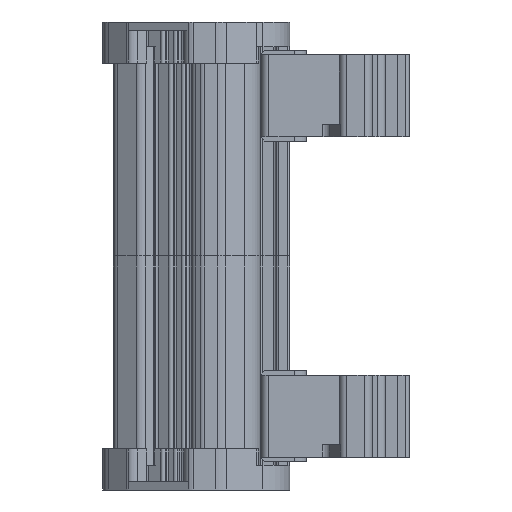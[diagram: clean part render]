
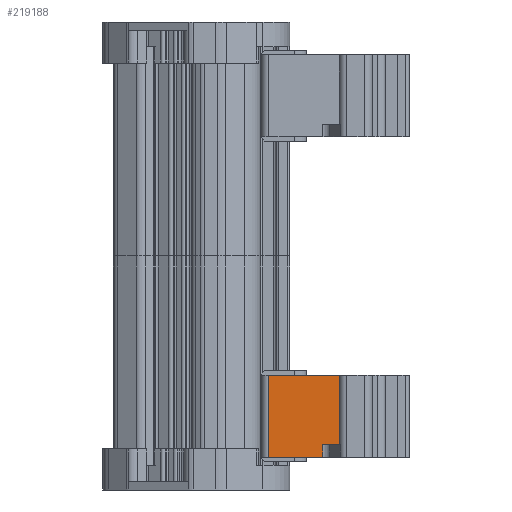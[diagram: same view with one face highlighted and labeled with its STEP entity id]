
A CAD part, left-side view. The second image highlights one B-rep face of the part: STEP entity #219188.
In plain terms, the highlighted planar face has unit normal (-1, 0, 0).
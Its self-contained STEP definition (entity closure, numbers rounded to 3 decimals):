
#210831 = PLANE('',#210832);
#210832 = AXIS2_PLACEMENT_3D('',#210833,#210834,#210835);
#210833 = CARTESIAN_POINT('',(80.168,-95.461,4.));
#210834 = DIRECTION('',(0.,0.,-1.));
#210835 = DIRECTION('',(-1.,0.,0.));
#210887 = PLANE('',#210888);
#210888 = AXIS2_PLACEMENT_3D('',#210889,#210890,#210891);
#210889 = CARTESIAN_POINT('',(-19.4,0.175,14.));
#210890 = DIRECTION('',(0.,0.,1.));
#210891 = DIRECTION('',(0.,1.,0.));
#211770 = CYLINDRICAL_SURFACE('',#211771,1.);
#211771 = AXIS2_PLACEMENT_3D('',#211772,#211773,#211774);
#211772 = CARTESIAN_POINT('',(-57.1,11.075,4.));
#211773 = DIRECTION('',(0.,0.,1.));
#211774 = DIRECTION('',(1.,0.,0.));
#219111 = VERTEX_POINT('',#219112);
#219112 = CARTESIAN_POINT('',(-58.1,11.075,4.));
#219138 = EDGE_CURVE('',#219111,#219139,#219141,.T.);
#219139 = VERTEX_POINT('',#219140);
#219140 = CARTESIAN_POINT('',(-58.1,11.075,14.));
#219141 = SURFACE_CURVE('',#219142,(#219146,#219153),.PCURVE_S1.);
#219142 = LINE('',#219143,#219144);
#219143 = CARTESIAN_POINT('',(-58.1,11.075,4.));
#219144 = VECTOR('',#219145,1.);
#219145 = DIRECTION('',(0.,0.,1.));
#219146 = PCURVE('',#211770,#219147);
#219147 = DEFINITIONAL_REPRESENTATION('',(#219148),#219152);
#219148 = LINE('',#219149,#219150);
#219149 = CARTESIAN_POINT('',(3.142,0.));
#219150 = VECTOR('',#219151,1.);
#219151 = DIRECTION('',(0.,1.));
#219152 = ( GEOMETRIC_REPRESENTATION_CONTEXT(2) 
PARAMETRIC_REPRESENTATION_CONTEXT() REPRESENTATION_CONTEXT('2D SPACE',''
  ) );
#219153 = PCURVE('',#219154,#219159);
#219154 = PLANE('',#219155);
#219155 = AXIS2_PLACEMENT_3D('',#219156,#219157,#219158);
#219156 = CARTESIAN_POINT('',(-58.1,4.519,4.));
#219157 = DIRECTION('',(-1.,0.,0.));
#219158 = DIRECTION('',(0.,1.,0.));
#219159 = DEFINITIONAL_REPRESENTATION('',(#219160),#219164);
#219160 = LINE('',#219161,#219162);
#219161 = CARTESIAN_POINT('',(6.556,0.));
#219162 = VECTOR('',#219163,1.);
#219163 = DIRECTION('',(0.,-1.));
#219164 = ( GEOMETRIC_REPRESENTATION_CONTEXT(2) 
PARAMETRIC_REPRESENTATION_CONTEXT() REPRESENTATION_CONTEXT('2D SPACE',''
  ) );
#219188 = ADVANCED_FACE('',(#219189),#219154,.T.);
#219189 = FACE_BOUND('',#219190,.T.);
#219190 = EDGE_LOOP('',(#219191,#219214,#219242,#219270,#219298,#219319)
  );
#219191 = ORIENTED_EDGE('',*,*,#219192,.F.);
#219192 = EDGE_CURVE('',#219193,#219111,#219195,.T.);
#219193 = VERTEX_POINT('',#219194);
#219194 = CARTESIAN_POINT('',(-58.1,4.519,4.));
#219195 = SURFACE_CURVE('',#219196,(#219200,#219207),.PCURVE_S1.);
#219196 = LINE('',#219197,#219198);
#219197 = CARTESIAN_POINT('',(-58.1,-73.8,4.));
#219198 = VECTOR('',#219199,1.);
#219199 = DIRECTION('',(0.,1.,0.));
#219200 = PCURVE('',#219154,#219201);
#219201 = DEFINITIONAL_REPRESENTATION('',(#219202),#219206);
#219202 = LINE('',#219203,#219204);
#219203 = CARTESIAN_POINT('',(-78.319,0.));
#219204 = VECTOR('',#219205,1.);
#219205 = DIRECTION('',(1.,0.));
#219206 = ( GEOMETRIC_REPRESENTATION_CONTEXT(2) 
PARAMETRIC_REPRESENTATION_CONTEXT() REPRESENTATION_CONTEXT('2D SPACE',''
  ) );
#219207 = PCURVE('',#210831,#219208);
#219208 = DEFINITIONAL_REPRESENTATION('',(#219209),#219213);
#219209 = LINE('',#219210,#219211);
#219210 = CARTESIAN_POINT('',(138.268,21.661));
#219211 = VECTOR('',#219212,1.);
#219212 = DIRECTION('',(0.,1.));
#219213 = ( GEOMETRIC_REPRESENTATION_CONTEXT(2) 
PARAMETRIC_REPRESENTATION_CONTEXT() REPRESENTATION_CONTEXT('2D SPACE',''
  ) );
#219214 = ORIENTED_EDGE('',*,*,#219215,.T.);
#219215 = EDGE_CURVE('',#219193,#219216,#219218,.T.);
#219216 = VERTEX_POINT('',#219217);
#219217 = CARTESIAN_POINT('',(-58.1,4.519,5.5));
#219218 = SURFACE_CURVE('',#219219,(#219223,#219230),.PCURVE_S1.);
#219219 = LINE('',#219220,#219221);
#219220 = CARTESIAN_POINT('',(-58.1,4.519,4.));
#219221 = VECTOR('',#219222,1.);
#219222 = DIRECTION('',(0.,0.,1.));
#219223 = PCURVE('',#219154,#219224);
#219224 = DEFINITIONAL_REPRESENTATION('',(#219225),#219229);
#219225 = LINE('',#219226,#219227);
#219226 = CARTESIAN_POINT('',(0.,0.));
#219227 = VECTOR('',#219228,1.);
#219228 = DIRECTION('',(0.,-1.));
#219229 = ( GEOMETRIC_REPRESENTATION_CONTEXT(2) 
PARAMETRIC_REPRESENTATION_CONTEXT() REPRESENTATION_CONTEXT('2D SPACE',''
  ) );
#219230 = PCURVE('',#219231,#219236);
#219231 = CYLINDRICAL_SURFACE('',#219232,1.);
#219232 = AXIS2_PLACEMENT_3D('',#219233,#219234,#219235);
#219233 = CARTESIAN_POINT('',(-59.1,4.519,4.));
#219234 = DIRECTION('',(0.,0.,1.));
#219235 = DIRECTION('',(1.,0.,0.));
#219236 = DEFINITIONAL_REPRESENTATION('',(#219237),#219241);
#219237 = LINE('',#219238,#219239);
#219238 = CARTESIAN_POINT('',(6.283,0.));
#219239 = VECTOR('',#219240,1.);
#219240 = DIRECTION('',(0.,1.));
#219241 = ( GEOMETRIC_REPRESENTATION_CONTEXT(2) 
PARAMETRIC_REPRESENTATION_CONTEXT() REPRESENTATION_CONTEXT('2D SPACE',''
  ) );
#219242 = ORIENTED_EDGE('',*,*,#219243,.T.);
#219243 = EDGE_CURVE('',#219216,#219244,#219246,.T.);
#219244 = VERTEX_POINT('',#219245);
#219245 = CARTESIAN_POINT('',(-58.1,0.475,5.5));
#219246 = SURFACE_CURVE('',#219247,(#219251,#219258),.PCURVE_S1.);
#219247 = LINE('',#219248,#219249);
#219248 = CARTESIAN_POINT('',(-58.1,4.519,5.5));
#219249 = VECTOR('',#219250,1.);
#219250 = DIRECTION('',(0.,-1.,0.));
#219251 = PCURVE('',#219154,#219252);
#219252 = DEFINITIONAL_REPRESENTATION('',(#219253),#219257);
#219253 = LINE('',#219254,#219255);
#219254 = CARTESIAN_POINT('',(0.,-1.5));
#219255 = VECTOR('',#219256,1.);
#219256 = DIRECTION('',(-1.,0.));
#219257 = ( GEOMETRIC_REPRESENTATION_CONTEXT(2) 
PARAMETRIC_REPRESENTATION_CONTEXT() REPRESENTATION_CONTEXT('2D SPACE',''
  ) );
#219258 = PCURVE('',#219259,#219264);
#219259 = PLANE('',#219260);
#219260 = AXIS2_PLACEMENT_3D('',#219261,#219262,#219263);
#219261 = CARTESIAN_POINT('',(88.639,-73.8,5.5));
#219262 = DIRECTION('',(0.,0.,1.));
#219263 = DIRECTION('',(1.,0.,0.));
#219264 = DEFINITIONAL_REPRESENTATION('',(#219265),#219269);
#219265 = LINE('',#219266,#219267);
#219266 = CARTESIAN_POINT('',(-146.739,78.319));
#219267 = VECTOR('',#219268,1.);
#219268 = DIRECTION('',(0.,-1.));
#219269 = ( GEOMETRIC_REPRESENTATION_CONTEXT(2) 
PARAMETRIC_REPRESENTATION_CONTEXT() REPRESENTATION_CONTEXT('2D SPACE',''
  ) );
#219270 = ORIENTED_EDGE('',*,*,#219271,.T.);
#219271 = EDGE_CURVE('',#219244,#219272,#219274,.T.);
#219272 = VERTEX_POINT('',#219273);
#219273 = CARTESIAN_POINT('',(-58.1,0.475,14.));
#219274 = SURFACE_CURVE('',#219275,(#219279,#219286),.PCURVE_S1.);
#219275 = LINE('',#219276,#219277);
#219276 = CARTESIAN_POINT('',(-58.1,0.475,14.));
#219277 = VECTOR('',#219278,1.);
#219278 = DIRECTION('',(0.,0.,1.));
#219279 = PCURVE('',#219154,#219280);
#219280 = DEFINITIONAL_REPRESENTATION('',(#219281),#219285);
#219281 = LINE('',#219282,#219283);
#219282 = CARTESIAN_POINT('',(-4.044,-10.));
#219283 = VECTOR('',#219284,1.);
#219284 = DIRECTION('',(0.,-1.));
#219285 = ( GEOMETRIC_REPRESENTATION_CONTEXT(2) 
PARAMETRIC_REPRESENTATION_CONTEXT() REPRESENTATION_CONTEXT('2D SPACE',''
  ) );
#219286 = PCURVE('',#219287,#219292);
#219287 = CYLINDRICAL_SURFACE('',#219288,0.5);
#219288 = AXIS2_PLACEMENT_3D('',#219289,#219290,#219291);
#219289 = CARTESIAN_POINT('',(-58.6,0.475,14.));
#219290 = DIRECTION('',(0.,0.,1.));
#219291 = DIRECTION('',(1.,0.,0.));
#219292 = DEFINITIONAL_REPRESENTATION('',(#219293),#219297);
#219293 = LINE('',#219294,#219295);
#219294 = CARTESIAN_POINT('',(6.283,0.));
#219295 = VECTOR('',#219296,1.);
#219296 = DIRECTION('',(0.,1.));
#219297 = ( GEOMETRIC_REPRESENTATION_CONTEXT(2) 
PARAMETRIC_REPRESENTATION_CONTEXT() REPRESENTATION_CONTEXT('2D SPACE',''
  ) );
#219298 = ORIENTED_EDGE('',*,*,#219299,.F.);
#219299 = EDGE_CURVE('',#219139,#219272,#219300,.T.);
#219300 = SURFACE_CURVE('',#219301,(#219305,#219312),.PCURVE_S1.);
#219301 = LINE('',#219302,#219303);
#219302 = CARTESIAN_POINT('',(-58.1,-73.8,14.));
#219303 = VECTOR('',#219304,1.);
#219304 = DIRECTION('',(0.,-1.,0.));
#219305 = PCURVE('',#219154,#219306);
#219306 = DEFINITIONAL_REPRESENTATION('',(#219307),#219311);
#219307 = LINE('',#219308,#219309);
#219308 = CARTESIAN_POINT('',(-78.319,-10.));
#219309 = VECTOR('',#219310,1.);
#219310 = DIRECTION('',(-1.,0.));
#219311 = ( GEOMETRIC_REPRESENTATION_CONTEXT(2) 
PARAMETRIC_REPRESENTATION_CONTEXT() REPRESENTATION_CONTEXT('2D SPACE',''
  ) );
#219312 = PCURVE('',#210887,#219313);
#219313 = DEFINITIONAL_REPRESENTATION('',(#219314),#219318);
#219314 = LINE('',#219315,#219316);
#219315 = CARTESIAN_POINT('',(-73.975,38.7));
#219316 = VECTOR('',#219317,1.);
#219317 = DIRECTION('',(-1.,0.));
#219318 = ( GEOMETRIC_REPRESENTATION_CONTEXT(2) 
PARAMETRIC_REPRESENTATION_CONTEXT() REPRESENTATION_CONTEXT('2D SPACE',''
  ) );
#219319 = ORIENTED_EDGE('',*,*,#219138,.F.);
